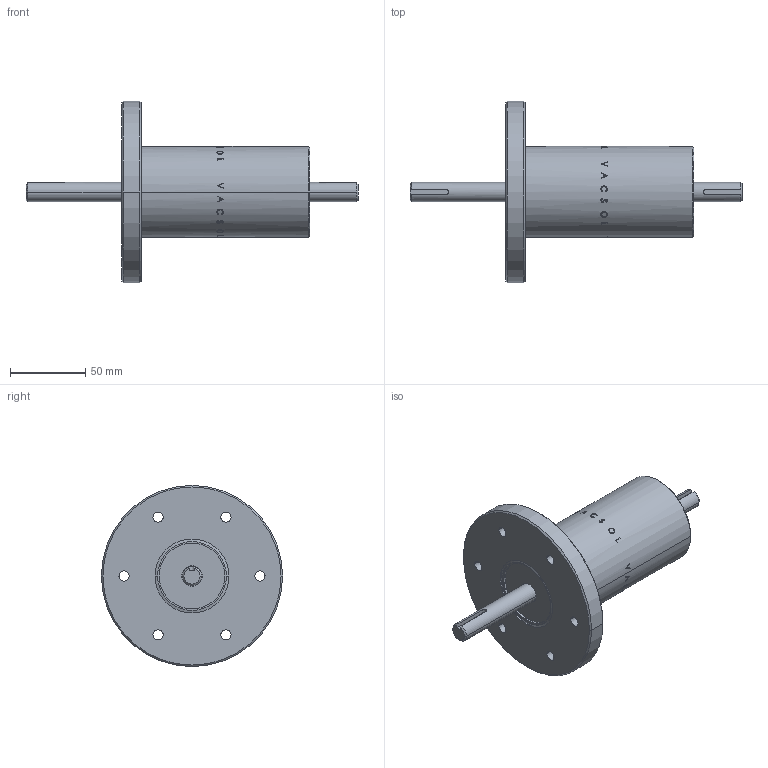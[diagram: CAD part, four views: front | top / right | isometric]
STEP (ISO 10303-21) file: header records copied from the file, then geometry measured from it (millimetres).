
FILE_DESCRIPTION (( 'STEP AP203' ), '1' );
FILE_NAME ('P63060.STEP', '2010-12-04T02:51:54', ( 'user' ), ( '' ), 'SwSTEP 2.0', 'SolidWorks 2007', '' );
FILE_SCHEMA (( 'CONFIG_CONTROL_DESIGN' ));
Length unit declared in the file: millimetre
Products named in the file (1): P63060
Bounding box: 219.9 x 120 x 120 mm (x, y, z)
Volume: 468092.2 mm3; surface area: 55961.2 mm2
Topology: 1 solids, 1 shells, 276 faces, 713 edges, 470 vertices
Faces by surface type: bspline 177, cylinder 63, plane 20, cone 16
Entity records: 23870 total; most frequent: CARTESIAN_POINT 18556, ORIENTED_EDGE 1426, EDGE_CURVE 713, B_SPLINE_CURVE_WITH_KNOTS 549, VERTEX_POINT 470, DIRECTION 457, EDGE_LOOP 319, FACE_OUTER_BOUND 276
